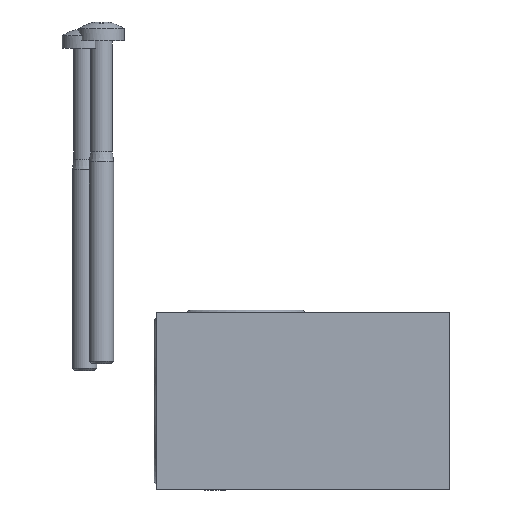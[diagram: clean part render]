
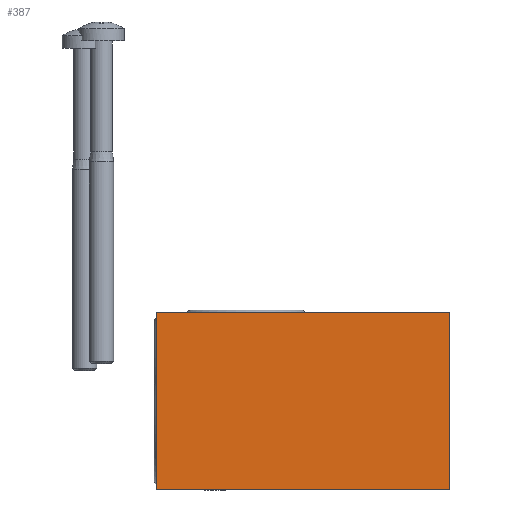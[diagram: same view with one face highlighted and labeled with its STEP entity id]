
A CAD part, front view. The second image highlights one B-rep face of the part: STEP entity #387.
In plain terms, the highlighted planar face has unit normal (0, -1, 0) as drawn and (0, 1, 0) by its records, which use the part's own axes.
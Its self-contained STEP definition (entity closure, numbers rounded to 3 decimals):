
#387 = ADVANCED_FACE( '    FACE', ( #870 ), #871, .T. );
#430 = EDGE_CURVE( '    LINE', #942, #943, #944, .T. );
#496 = EDGE_CURVE( '    LINE', #781, #943, #1051, .T. );
#612 = EDGE_CURVE( '    LINE', #781, #1078, #1231, .T. );
#642 = EDGE_CURVE( '    LINE', #1078, #942, #1277, .T. );
#781 = VERTEX_POINT( '', #1400 );
#870 = FACE_OUTER_BOUND( '', #1595, .T. );
#871 = PLANE( '', #1596 );
#942 = VERTEX_POINT( '', #1766 );
#943 = VERTEX_POINT( '', #1767 );
#944 = LINE( '', #1768, #1769 );
#1051 = LINE( '', #1892, #1893 );
#1078 = VERTEX_POINT( '', #1930 );
#1231 = LINE( '', #2172, #2173 );
#1277 = LINE( '', #2288, #2289 );
#1400 = CARTESIAN_POINT( '', ( -36.25, 19., -16. ) );
#1595 = EDGE_LOOP( '', ( #2656, #2657, #2658, #2659 ) );
#1596 = AXIS2_PLACEMENT_3D( '', #2660, #2661, #2662 );
#1766 = CARTESIAN_POINT( '', ( 0.125, 19., -38. ) );
#1767 = CARTESIAN_POINT( '', ( -36.25, 19., -38. ) );
#1768 = CARTESIAN_POINT( '', ( 0.125, 19., -38. ) );
#1769 = VECTOR( '', #2759, 1000. );
#1892 = CARTESIAN_POINT( '', ( -36.25, 19., -16. ) );
#1893 = VECTOR( '', #2975, 1000. );
#1930 = CARTESIAN_POINT( '', ( 0.125, 19., -16. ) );
#2172 = CARTESIAN_POINT( '', ( -36.25, 19., -16. ) );
#2173 = VECTOR( '', #3257, 1000. );
#2288 = CARTESIAN_POINT( '', ( 0.125, 19., -16. ) );
#2289 = VECTOR( '', #3349, 1000. );
#2656 = ORIENTED_EDGE( '', *, *, #612, .T. );
#2657 = ORIENTED_EDGE( '', *, *, #642, .T. );
#2658 = ORIENTED_EDGE( '', *, *, #430, .T. );
#2659 = ORIENTED_EDGE( '', *, *, #496, .F. );
#2660 = CARTESIAN_POINT( '', ( -36.25, 19., -16. ) );
#2661 = DIRECTION( '', ( 0., 1., 0. ) );
#2662 = DIRECTION( '', ( 1., 0., 0. ) );
#2759 = DIRECTION( '', ( -1., 0., 0. ) );
#2975 = DIRECTION( '', ( 0., 0., -1. ) );
#3257 = DIRECTION( '', ( 1., 0., 0. ) );
#3349 = DIRECTION( '', ( 0., 0., -1. ) );
